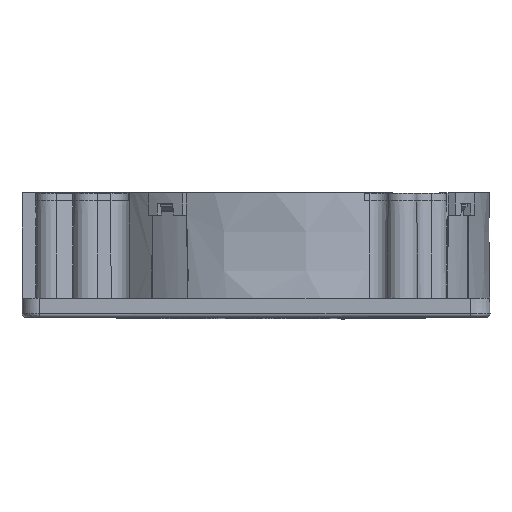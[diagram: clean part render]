
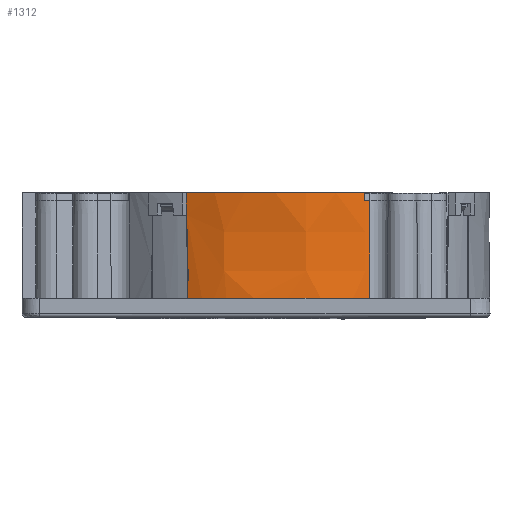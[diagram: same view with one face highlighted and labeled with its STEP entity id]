
A CAD part, front view. The second image highlights one B-rep face of the part: STEP entity #1312.
In plain terms, the highlighted free-form (B-spline) face has degree [3, 3] with [7, 4] control points.
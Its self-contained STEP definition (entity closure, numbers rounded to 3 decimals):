
#58=B_SPLINE_SURFACE_WITH_KNOTS('',3,3,((#20957,#20958,#20959,#20960),(#20961,
#20962,#20963,#20964),(#20965,#20966,#20967,#20968),(#20969,#20970,#20971,
#20972),(#20973,#20974,#20975,#20976),(#20977,#20978,#20979,#20980),(#20981,
#20982,#20983,#20984)),.UNSPECIFIED.,.F.,.F.,.F.,(4,1,1,1,4),(4,4),(0.,
0.262,0.617,0.883,1.),(0.,1.),
 .UNSPECIFIED.);
#1312=ADVANCED_FACE('',(#2340),#58,.F.);
#2340=FACE_OUTER_BOUND('',#3056,.T.);
#3056=EDGE_LOOP('',(#5774,#5775,#5776,#5777,#5778,#5779,#5780,#5781,#5782,
#5783,#5784,#5785));
#3789=B_SPLINE_CURVE_WITH_KNOTS('',3,(#20888,#20889,#20890,#20891),
 .UNSPECIFIED.,.F.,.F.,(4,4),(0.,1.),.UNSPECIFIED.);
#3790=B_SPLINE_CURVE_WITH_KNOTS('',3,(#20894,#20895,#20896,#20897,#20898),
 .UNSPECIFIED.,.F.,.F.,(4,1,4),(0.,0.863,1.),.UNSPECIFIED.);
#3791=B_SPLINE_CURVE_WITH_KNOTS('',3,(#20902,#20903,#20904,#20905,#20906,
#20907,#20908,#20909,#20910,#20911,#20912,#20913),.UNSPECIFIED.,.F.,.F.,
(4,2,2,2,2,4),(0.,0.25,0.5,0.75,0.875,1.),.UNSPECIFIED.);
#3792=B_SPLINE_CURVE_WITH_KNOTS('',3,(#20917,#20918,#20919,#20920),
 .UNSPECIFIED.,.F.,.F.,(4,4),(0.,1.),.UNSPECIFIED.);
#3793=B_SPLINE_CURVE_WITH_KNOTS('',3,(#20922,#20923,#20924,#20925,#20926,
#20927,#20928),.UNSPECIFIED.,.F.,.F.,(4,3,4),(0.,0.658,1.),
 .UNSPECIFIED.);
#3794=B_SPLINE_CURVE_WITH_KNOTS('',3,(#20930,#20931,#20932,#20933),
 .UNSPECIFIED.,.F.,.F.,(4,4),(0.,1.),.UNSPECIFIED.);
#3795=B_SPLINE_CURVE_WITH_KNOTS('',3,(#20935,#20936,#20937,#20938),
 .UNSPECIFIED.,.F.,.F.,(4,4),(0.,1.),.UNSPECIFIED.);
#3796=B_SPLINE_CURVE_WITH_KNOTS('',3,(#20940,#20941,#20942,#20943,#20944,
#20945),.UNSPECIFIED.,.F.,.F.,(4,1,1,4),(0.,0.313,0.849,
1.),.UNSPECIFIED.);
#3797=B_SPLINE_CURVE_WITH_KNOTS('',3,(#20947,#20948,#20949,#20950),
 .UNSPECIFIED.,.F.,.F.,(4,4),(0.,1.),.UNSPECIFIED.);
#3798=B_SPLINE_CURVE_WITH_KNOTS('',3,(#20952,#20953,#20954,#20955,#20956),
 .UNSPECIFIED.,.F.,.F.,(4,1,4),(0.,0.282,1.),.UNSPECIFIED.);
#5774=ORIENTED_EDGE('',*,*,#10404,.F.);
#5775=ORIENTED_EDGE('',*,*,#10405,.T.);
#5776=ORIENTED_EDGE('',*,*,#10406,.T.);
#5777=ORIENTED_EDGE('',*,*,#10407,.F.);
#5778=ORIENTED_EDGE('',*,*,#10408,.F.);
#5779=ORIENTED_EDGE('',*,*,#10409,.T.);
#5780=ORIENTED_EDGE('',*,*,#10410,.T.);
#5781=ORIENTED_EDGE('',*,*,#10411,.F.);
#5782=ORIENTED_EDGE('',*,*,#10412,.F.);
#5783=ORIENTED_EDGE('',*,*,#10413,.F.);
#5784=ORIENTED_EDGE('',*,*,#10414,.T.);
#5785=ORIENTED_EDGE('',*,*,#10415,.F.);
#8830=VERTEX_POINT('',#20892);
#8831=VERTEX_POINT('',#20893);
#8832=VERTEX_POINT('',#20899);
#8833=VERTEX_POINT('',#20901);
#8834=VERTEX_POINT('',#20914);
#8835=VERTEX_POINT('',#20916);
#8836=VERTEX_POINT('',#20921);
#8837=VERTEX_POINT('',#20929);
#8838=VERTEX_POINT('',#20934);
#8839=VERTEX_POINT('',#20939);
#8840=VERTEX_POINT('',#20946);
#8841=VERTEX_POINT('',#20951);
#10404=EDGE_CURVE('',#8830,#8831,#3789,.T.);
#10405=EDGE_CURVE('',#8830,#8832,#3790,.T.);
#10406=EDGE_CURVE('',#8832,#8833,#11958,.T.);
#10407=EDGE_CURVE('',#8834,#8833,#3791,.T.);
#10408=EDGE_CURVE('',#8835,#8834,#11959,.T.);
#10409=EDGE_CURVE('',#8835,#8836,#3792,.T.);
#10410=EDGE_CURVE('',#8836,#8837,#3793,.T.);
#10411=EDGE_CURVE('',#8838,#8837,#3794,.T.);
#10412=EDGE_CURVE('',#8839,#8838,#3795,.T.);
#10413=EDGE_CURVE('',#8840,#8839,#3796,.T.);
#10414=EDGE_CURVE('',#8840,#8841,#3797,.T.);
#10415=EDGE_CURVE('',#8831,#8841,#3798,.T.);
#11958=LINE('',#20900,#12914);
#11959=LINE('',#20915,#12915);
#12914=VECTOR('',#15840,1.);
#12915=VECTOR('',#15841,1.);
#15840=DIRECTION('',(-0.003,0.005,1.));
#15841=DIRECTION('',(0.003,0.005,1.));
#20888=CARTESIAN_POINT('',(29.437,33.108,25.));
#20889=CARTESIAN_POINT('',(29.46,33.065,15.633));
#20890=CARTESIAN_POINT('',(29.482,33.021,6.267));
#20891=CARTESIAN_POINT('',(29.505,32.978,-3.1));
#20892=CARTESIAN_POINT('',(29.437,33.108,25.));
#20893=CARTESIAN_POINT('',(29.505,32.978,-3.1));
#20894=CARTESIAN_POINT('',(29.437,33.108,25.));
#20895=CARTESIAN_POINT('',(29.059,32.914,25.));
#20896=CARTESIAN_POINT('',(28.618,32.694,25.));
#20897=CARTESIAN_POINT('',(28.173,32.481,25.));
#20898=CARTESIAN_POINT('',(28.113,32.453,25.));
#20899=CARTESIAN_POINT('',(28.113,32.453,25.));
#20900=CARTESIAN_POINT('',(28.113,32.453,25.));
#20901=CARTESIAN_POINT('',(28.107,32.462,27.));
#20902=CARTESIAN_POINT('',(-17.563,32.893,27.));
#20903=CARTESIAN_POINT('',(-14.057,31.214,27.));
#20904=CARTESIAN_POINT('',(-10.274,29.918,27.));
#20905=CARTESIAN_POINT('',(-2.6,28.166,27.));
#20906=CARTESIAN_POINT('',(1.312,27.697,27.));
#20907=CARTESIAN_POINT('',(9.202,27.592,27.));
#20908=CARTESIAN_POINT('',(13.082,27.948,27.));
#20909=CARTESIAN_POINT('',(18.91,29.154,27.));
#20910=CARTESIAN_POINT('',(20.768,29.649,27.));
#20911=CARTESIAN_POINT('',(24.534,30.898,27.));
#20912=CARTESIAN_POINT('',(26.353,31.628,27.));
#20913=CARTESIAN_POINT('',(28.107,32.462,27.));
#20914=CARTESIAN_POINT('',(-17.563,32.893,27.));
#20915=CARTESIAN_POINT('',(-17.578,32.867,21.3));
#20916=CARTESIAN_POINT('',(-17.578,32.867,21.3));
#20917=CARTESIAN_POINT('',(-17.578,32.867,21.3));
#20918=CARTESIAN_POINT('',(-17.548,32.852,21.3));
#20919=CARTESIAN_POINT('',(-17.518,32.838,21.3));
#20920=CARTESIAN_POINT('',(-17.487,32.824,21.3));
#20921=CARTESIAN_POINT('',(-17.487,32.824,21.3));
#20922=CARTESIAN_POINT('',(-17.487,32.824,21.3));
#20923=CARTESIAN_POINT('',(-17.417,32.759,15.946));
#20924=CARTESIAN_POINT('',(-17.346,32.694,10.591));
#20925=CARTESIAN_POINT('',(-17.275,32.63,5.237));
#20926=CARTESIAN_POINT('',(-17.239,32.597,2.458));
#20927=CARTESIAN_POINT('',(-17.202,32.564,-0.321));
#20928=CARTESIAN_POINT('',(-17.165,32.53,-3.1));
#20929=CARTESIAN_POINT('',(-17.165,32.53,-3.1));
#20930=CARTESIAN_POINT('',(-13.716,31.074,-3.1));
#20931=CARTESIAN_POINT('',(-14.892,31.522,-3.1));
#20932=CARTESIAN_POINT('',(-16.042,32.007,-3.1));
#20933=CARTESIAN_POINT('',(-17.165,32.53,-3.1));
#20934=CARTESIAN_POINT('',(-13.716,31.074,-3.1));
#20935=CARTESIAN_POINT('',(-13.534,31.023,0.));
#20936=CARTESIAN_POINT('',(-13.595,31.04,-1.037));
#20937=CARTESIAN_POINT('',(-13.655,31.057,-2.07));
#20938=CARTESIAN_POINT('',(-13.716,31.074,-3.1));
#20939=CARTESIAN_POINT('',(-13.534,31.023,0.));
#20940=CARTESIAN_POINT('',(25.194,31.045,0.));
#20941=CARTESIAN_POINT('',(21.354,29.534,0.));
#20942=CARTESIAN_POINT('',(10.415,26.783,0.));
#20943=CARTESIAN_POINT('',(-2.995,27.61,0.));
#20944=CARTESIAN_POINT('',(-11.671,30.322,0.));
#20945=CARTESIAN_POINT('',(-13.534,31.023,0.));
#20946=CARTESIAN_POINT('',(25.194,31.045,0.));
#20947=CARTESIAN_POINT('',(25.194,31.045,0.));
#20948=CARTESIAN_POINT('',(25.256,31.063,-1.038));
#20949=CARTESIAN_POINT('',(25.318,31.082,-2.071));
#20950=CARTESIAN_POINT('',(25.38,31.101,-3.1));
#20951=CARTESIAN_POINT('',(25.38,31.101,-3.1));
#20952=CARTESIAN_POINT('',(29.505,32.978,-3.1));
#20953=CARTESIAN_POINT('',(29.125,32.782,-3.1));
#20954=CARTESIAN_POINT('',(27.772,32.108,-3.1));
#20955=CARTESIAN_POINT('',(26.387,31.502,-3.1));
#20956=CARTESIAN_POINT('',(25.38,31.101,-3.1));
#20957=CARTESIAN_POINT('',(-22.128,35.392,27.618));
#20958=CARTESIAN_POINT('',(-22.158,35.345,16.908));
#20959=CARTESIAN_POINT('',(-22.188,35.297,6.198));
#20960=CARTESIAN_POINT('',(-22.217,35.25,-4.513));
#20961=CARTESIAN_POINT('',(-17.718,32.656,27.618));
#20962=CARTESIAN_POINT('',(-17.743,32.605,16.908));
#20963=CARTESIAN_POINT('',(-17.767,32.555,6.198));
#20964=CARTESIAN_POINT('',(-17.792,32.504,-4.513));
#20965=CARTESIAN_POINT('',(-6.244,27.957,27.618));
#20966=CARTESIAN_POINT('',(-6.255,27.901,16.908));
#20967=CARTESIAN_POINT('',(-6.267,27.845,6.198));
#20968=CARTESIAN_POINT('',(-6.278,27.789,-4.513));
#20969=CARTESIAN_POINT('',(11.572,26.858,27.618));
#20970=CARTESIAN_POINT('',(11.577,26.8,16.908));
#20971=CARTESIAN_POINT('',(11.581,26.743,6.198));
#20972=CARTESIAN_POINT('',(11.586,26.686,-4.513));
#20973=CARTESIAN_POINT('',(25.808,30.916,27.618));
#20974=CARTESIAN_POINT('',(25.83,30.864,16.908));
#20975=CARTESIAN_POINT('',(25.852,30.812,6.198));
#20976=CARTESIAN_POINT('',(25.873,30.76,-4.513));
#20977=CARTESIAN_POINT('',(32.404,34.726,27.618));
#20978=CARTESIAN_POINT('',(32.432,34.678,16.908));
#20979=CARTESIAN_POINT('',(32.461,34.629,6.198));
#20980=CARTESIAN_POINT('',(32.49,34.581,-4.513));
#20981=CARTESIAN_POINT('',(34.341,36.028,27.618));
#20982=CARTESIAN_POINT('',(34.372,35.981,16.908));
#20983=CARTESIAN_POINT('',(34.402,35.934,6.198));
#20984=CARTESIAN_POINT('',(34.433,35.887,-4.513));
